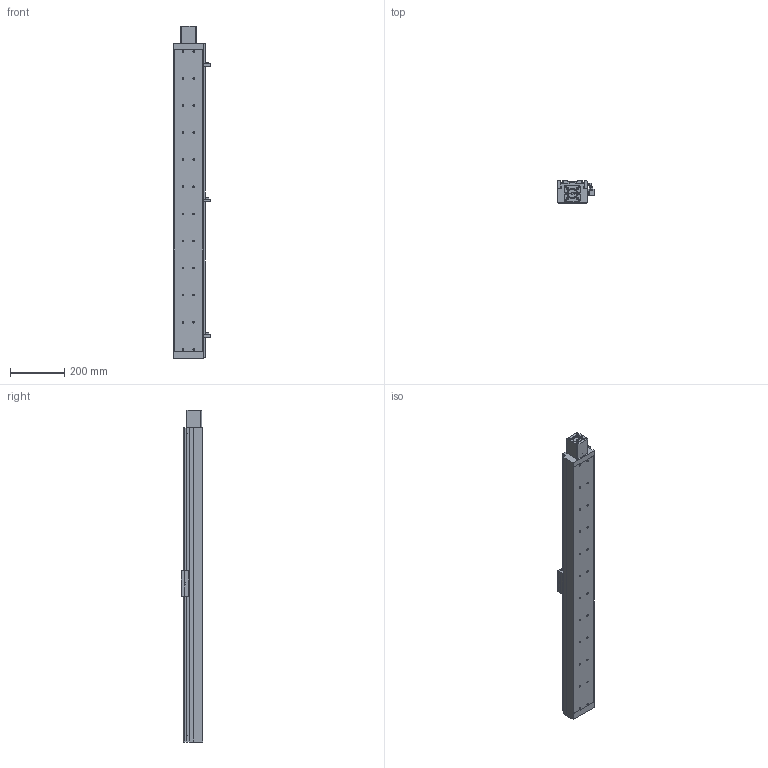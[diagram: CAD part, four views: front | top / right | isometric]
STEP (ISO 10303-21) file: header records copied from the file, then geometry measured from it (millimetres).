
FILE_DESCRIPTION((''),'2;1');
FILE_NAME('E:\libraries\UIA actuator library 2009\standard actuator\UIA110R12(15)DC\UIA110R12(15)DC-ball screw dia.16\UIA110R12(15)DC-_ _ _-R16_ _ step file 20Apr16\UIA110R12(15)DC-1000-R16_ _-M23-P13-C10-S.stp','2016-04-20T17:27:07',('h029'),(''),'Autodesk Inventor 11','Autodesk Inventor 11','');
FILE_SCHEMA(('AUTOMOTIVE_DESIGN { 1 0 10303 214 1 1 1 1 }'));
Length unit declared in the file: millimetre
Products named in the file (10): UIA110R12(15)DC-1000, ball screw dia.16; body, UIA110R12(15)DC-1000,ball screw dia.16; Carriage, UIA110R12(15)DC; Sen Switch, UIA110R12(15)DC; sensor rail, UIA110R12(15)DC-1000; SOH-32C; SOH-32C-3; SOH-32C-1; SOH-32C-2; M23 motor mount
Assembly tree (9 placements, depth 3):
  UIA110R12(15)DC-1000, ball screw dia.16
    body, UIA110R12(15)DC-1000,ball screw dia.16
    Carriage, UIA110R12(15)DC
    Sen Switch, UIA110R12(15)DC
    sensor rail, UIA110R12(15)DC-1000
    SOH-32C
      SOH-32C-3
      SOH-32C-1
      SOH-32C-2
    M23 motor mount
Bounding box: 136.5 x 81 x 1227 mm (x, y, z)
Volume: 8757927.7 mm3; surface area: 671148.6 mm2
Topology: 8 solids, 8 shells, 677 faces, 1776 edges, 1165 vertices
Faces by surface type: plane 427, cylinder 148, bspline 83, cone 19
Full cylindrical faces by diameter (mm): 2.459 x4, 3.242 x4, 4 x6, 4.5 x4, 5.5 x3, 6.35 x1, 6.5 x24, 7.5 x4, 8 x2, 9.5 x6, 10 x1, 10.5 x24, 21 x1, 32 x3, 37 x1, 38.1 x1, 42 x1, 42.01 x1, 43.5 x1
Entity records: 21220 total; most frequent: CARTESIAN_POINT 5283, DIRECTION 3223, ORIENTED_EDGE 3034, EDGE_CURVE 1517, AXIS2_PLACEMENT_3D 1110, VERTEX_POINT 1088, VECTOR 1003, LINE 1003
